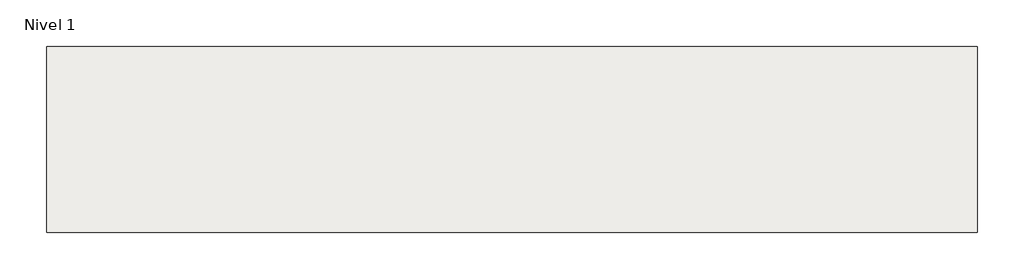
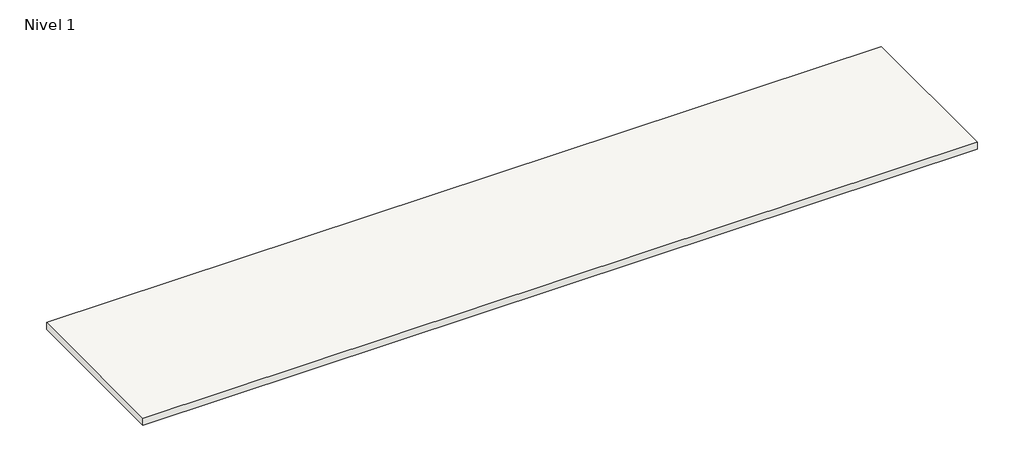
# One storey, incomplete: 1 slab.
"""IFC4 building model written with IfcOpenShell, lengths in millimetres."""

from ifc_helpers import new_model, si_unit, frame, origin, place, context, project, spatial, polyline, outline, extrude, element, save

model = new_model("IFC4")

# Units and contexts
model_context = context("Model", 3, world=origin())
ifc_project = project(units=[si_unit("LENGTHUNIT", "METRE", prefix="MILLI")], contexts=[model_context])

# Site, building, storey
site = spatial("IfcSite", under=ifc_project)
building = spatial("IfcBuilding", under=site)
storey = spatial("IfcBuildingStorey", under=building, Name="Nivel 1", Elevation=0.0)

# Slab
placement = place(None, origin())
element("IfcSlab", 1, ObjectType="Por defecto - 30 cm", at=placement, inside=storey, context=model_context, shape_type="SweptSolid", body=[
    extrude(outline(polyline([(21295.415583, -560.582861), (21295.415583, -7360.582861), (-12704.584417, -7360.582861), (-12704.584417, -560.582861), (21295.415583, -560.582861)])), frame((0.0, 0.0, -300.0), z_axis=(0.0, 0.0, 1.0), x_axis=(1.0, 0.0, 0.0)), (0.0, 0.0, 1.0), 300.0),
])

save(model, "model.ifc")
